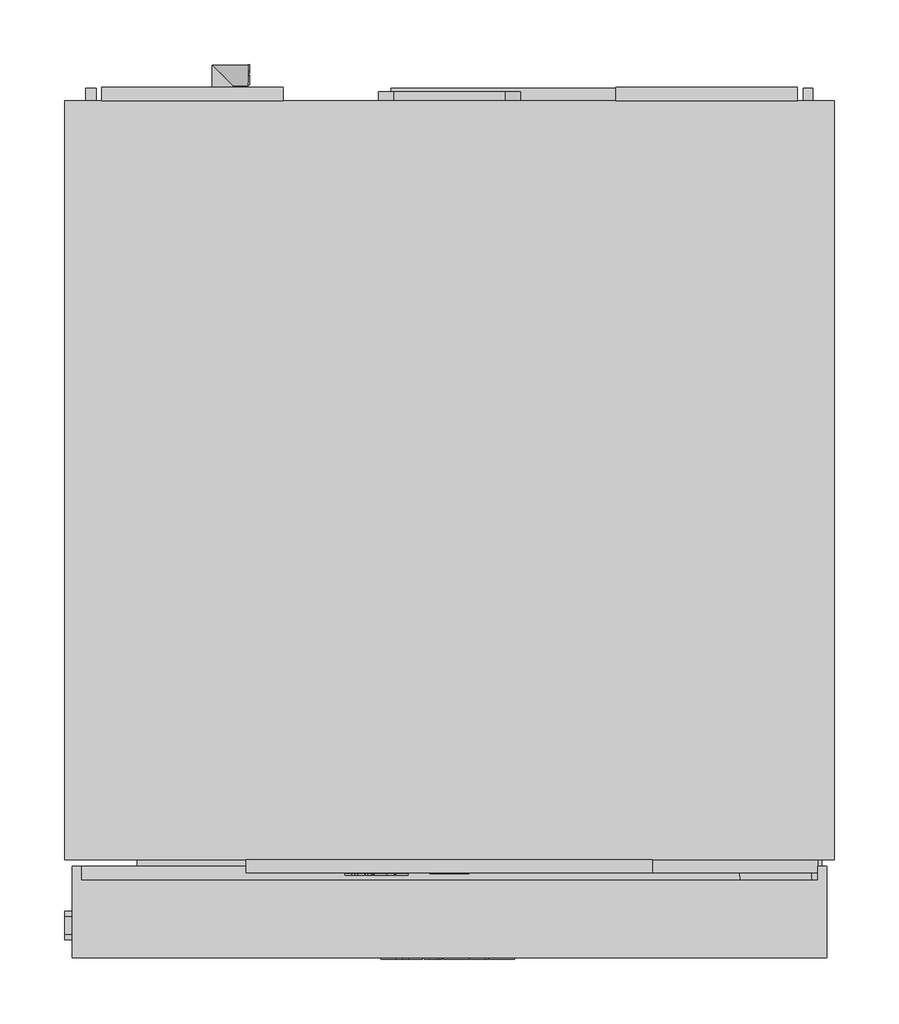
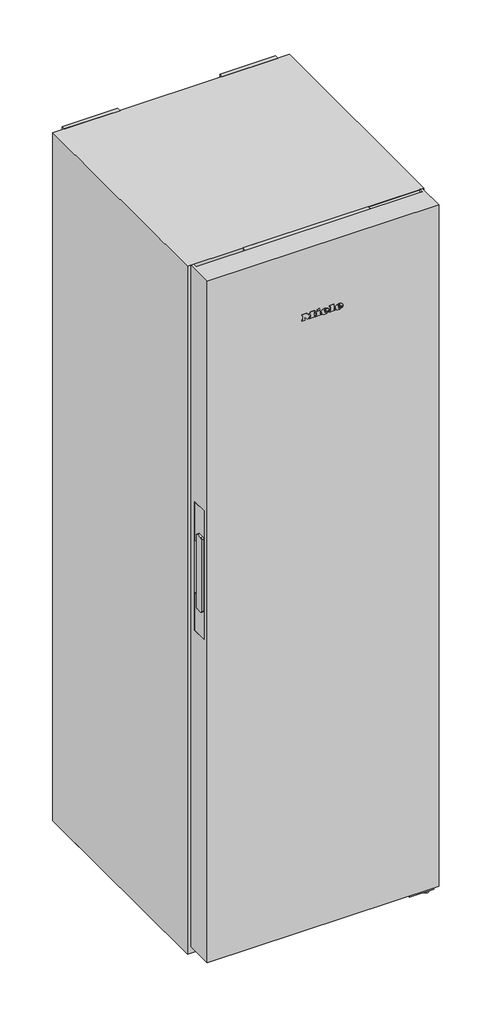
# Not in any storey: 1 proxy.
"""IFC4 building model written with IfcOpenShell, lengths in millimetres."""

from ifc_helpers import new_model, si_unit, origin, place, context, project, spatial, transform, mapped, element, save
from components import specialty_equipment_1393cf11

model = new_model("IFC4")

# Units and contexts
model_context = context("Model", 3, world=origin())
ifc_project = project(units=[si_unit("LENGTHUNIT", "METRE", prefix="MILLI")], contexts=[model_context])

# Site, building
site = spatial("IfcSite", under=ifc_project)
building = spatial("IfcBuilding", under=site)

# Proxy
placement = place(None, origin())
specialty_equipment_shape = specialty_equipment_1393cf11(model_context)
element("IfcBuildingElementProxy", 1, Name="11953910_EU1_FN4874C_WS : 37487434_EU1_11953910_FN4874C_WS", ObjectType="11953910_EU1_FN4874C_WS : 37487434_EU1_11953910_FN4874C_WS", at=placement, inside=building, context=model_context, shape_type="MappedRepresentation", body=[
    mapped(specialty_equipment_shape, transform((0.0, 0.0, 0.0), x_axis=(1.0, 0.0, 0.0), y_axis=(0.0, 1.0, 0.0), z_axis=(0.0, 0.0, 1.0))),
])

save(model, "model.ifc")
